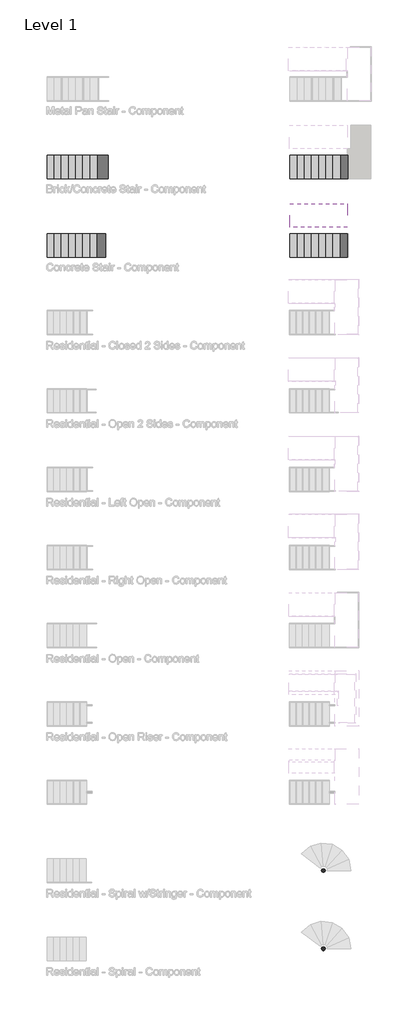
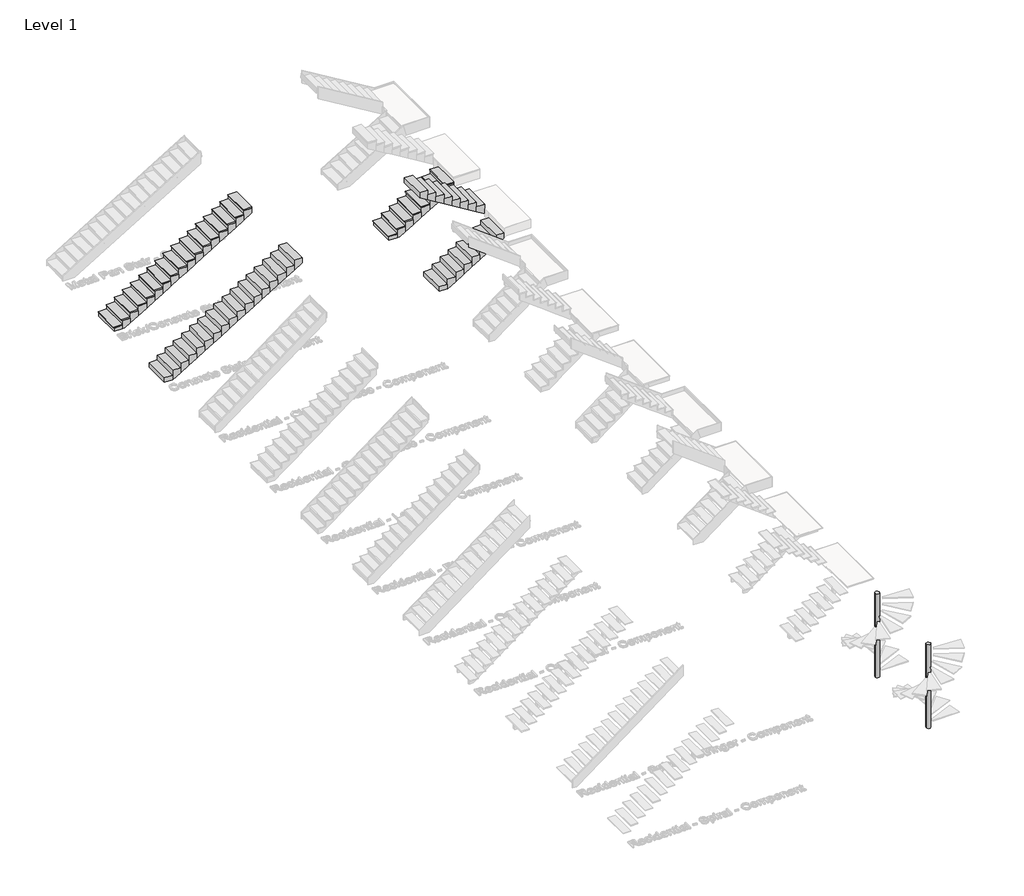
# One storey, part 1 of 15: 5 stair flights, 2 columns.
"""IFC4 building model written with IfcOpenShell, lengths in millimetres."""

from ifc_helpers import new_model, si_unit, frame, origin, place, context, project, spatial, polyline, outline, extrude, faceted_brep, transform, mapped, element, save
from components import column_79e7fb11

model = new_model("IFC4")

# Units and contexts
model_context = context("Model", 3, world=origin())
ifc_project = project(units=[si_unit("LENGTHUNIT", "METRE", prefix="MILLI")], contexts=[model_context])

# Site, building, storey
site = spatial("IfcSite", under=ifc_project)
building = spatial("IfcBuilding", under=site)
storey = spatial("IfcBuildingStorey", under=building, Name="Level 1", Elevation=0.0)

# Columns
placement = place(None, origin())
column_shape = column_79e7fb11(model_context)
element("IfcColumn", 1, ObjectType="Round Column : 06\" Diameter", at=placement, inside=storey, context=model_context, shape_type="MappedRepresentation", body=[
    mapped(column_shape, transform((-16453.3863784, -13874.8871906, 0.0), x_axis=(1.0, 0.0, 0.0), y_axis=(0.0, 1.0, 0.0), z_axis=(0.0, 0.0, 1.0))),
])
element("IfcColumn", 2, ObjectType="Round Column : 06\" Diameter", at=placement, inside=storey, context=model_context, shape_type="MappedRepresentation", body=[
    mapped(column_shape, transform((-16453.3863784, -16922.8871906, 0.0), x_axis=(1.0, 0.0, 0.0), y_axis=(0.0, 1.0, 0.0), z_axis=(0.0, 0.0, 1.0))),
])

# Stair flights
element("IfcStairFlight", 3, ObjectType="1 3/4\" Tread 1\" Nosing", at=placement, inside=storey, context=model_context, shape_type="SolidModel", body=[
    faceted_brep([(-26926.0481446, 13972.7635042, 124.8833333), (-27205.4481446, 13972.7635042, 124.8833333), (-27205.4481446, 13058.3635042, 124.8833333), (-26926.0481446, 13058.3635042, 124.8833333), (-26926.0481446, 13972.7635042, 0.0), (-27205.4481446, 13972.7635042, 0.0), (-27205.4481446, 13058.3635042, 0.0), (-26926.0481446, 13058.3635042, 0.0), (-26646.6481446, 13972.7635042, 294.2166667), (-26926.0481446, 13972.7635042, 294.2166667), (-26926.0481446, 13058.3635042, 294.2166667), (-26646.6481446, 13058.3635042, 294.2166667), (-26646.6481446, 13972.7635042, 116.0122859), (-26838.0684164, 13972.7635042, 0.0), (-26838.0684164, 13058.3635042, 0.0), (-26646.6481446, 13058.3635042, 116.0122859), (-26367.2481446, 13972.7635042, 463.55), (-26646.6481446, 13972.7635042, 463.55), (-26646.6481446, 13058.3635042, 463.55), (-26367.2481446, 13058.3635042, 463.55), (-26367.2481446, 13972.7635042, 285.3456192), (-26367.2481446, 13058.3635042, 285.3456192), (-26087.8481446, 13972.7635042, 632.8833333), (-26367.2481446, 13972.7635042, 632.8833333), (-26367.2481446, 13058.3635042, 632.8833333), (-26087.8481446, 13058.3635042, 632.8833333), (-26087.8481446, 13972.7635042, 454.6789526), (-26087.8481446, 13058.3635042, 454.6789526), (-25808.4481446, 13972.7635042, 802.2166667), (-26087.8481446, 13972.7635042, 802.2166667), (-26087.8481446, 13058.3635042, 802.2166667), (-25808.4481446, 13058.3635042, 802.2166667), (-25808.4481446, 13972.7635042, 624.0122859), (-25808.4481446, 13058.3635042, 624.0122859), (-25529.0481446, 13972.7635042, 971.55), (-25808.4481446, 13972.7635042, 971.55), (-25808.4481446, 13058.3635042, 971.55), (-25529.0481446, 13058.3635042, 971.55), (-25529.0481446, 13972.7635042, 793.3456192), (-25529.0481446, 13058.3635042, 793.3456192), (-25249.6481446, 13972.7635042, 1140.8833333), (-25529.0481446, 13972.7635042, 1140.8833333), (-25529.0481446, 13058.3635042, 1140.8833333), (-25249.6481446, 13058.3635042, 1140.8833333), (-25249.6481446, 13972.7635042, 962.6789526), (-25249.6481446, 13058.3635042, 962.6789526), (-24970.2481446, 13972.7635042, 1310.2166667), (-25249.6481446, 13972.7635042, 1310.2166667), (-25249.6481446, 13058.3635042, 1310.2166667), (-24970.2481446, 13058.3635042, 1310.2166667), (-24970.2481446, 13972.7635042, 1132.0122859), (-24970.2481446, 13058.3635042, 1132.0122859), (-24690.8481446, 13972.7635042, 1479.55), (-24970.2481446, 13972.7635042, 1479.55), (-24970.2481446, 13058.3635042, 1479.55), (-24690.8481446, 13058.3635042, 1479.55), (-24690.8481446, 13972.7635042, 1301.3456192), (-24690.8481446, 13058.3635042, 1301.3456192), (-24411.4481446, 13972.7635042, 1648.8833333), (-24690.8481446, 13972.7635042, 1648.8833333), (-24690.8481446, 13058.3635042, 1648.8833333), (-24411.4481446, 13058.3635042, 1648.8833333), (-24411.4481446, 13972.7635042, 1470.6789526), (-24411.4481446, 13058.3635042, 1470.6789526), (-24132.0481446, 13972.7635042, 1818.2166667), (-24411.4481446, 13972.7635042, 1818.2166667), (-24411.4481446, 13058.3635042, 1818.2166667), (-24132.0481446, 13058.3635042, 1818.2166667), (-24132.0481446, 13972.7635042, 1640.0122859), (-24132.0481446, 13058.3635042, 1640.0122859), (-23852.6481446, 13972.7635042, 1987.55), (-24132.0481446, 13972.7635042, 1987.55), (-24132.0481446, 13058.3635042, 1987.55), (-23852.6481446, 13058.3635042, 1987.55), (-23852.6481446, 13972.7635042, 1809.3456192), (-23852.6481446, 13058.3635042, 1809.3456192), (-23573.2481446, 13972.7635042, 2156.8833333), (-23852.6481446, 13972.7635042, 2156.8833333), (-23852.6481446, 13058.3635042, 2156.8833333), (-23573.2481446, 13058.3635042, 2156.8833333), (-23573.2481446, 13972.7635042, 1978.6789526), (-23573.2481446, 13058.3635042, 1978.6789526), (-23293.8481446, 13972.7635042, 2326.2166667), (-23573.2481446, 13972.7635042, 2326.2166667), (-23573.2481446, 13058.3635042, 2326.2166667), (-23293.8481446, 13058.3635042, 2326.2166667), (-23293.8481446, 13972.7635042, 2148.0122859), (-23293.8481446, 13058.3635042, 2148.0122859), (-23014.4481446, 13972.7635042, 2495.55), (-23293.8481446, 13972.7635042, 2495.55), (-23293.8481446, 13058.3635042, 2495.55), (-23014.4481446, 13058.3635042, 2495.55), (-23014.4481446, 13972.7635042, 2317.3456192), (-23014.4481446, 13058.3635042, 2317.3456192), (-22735.0481446, 13972.7635042, 2664.8833333), (-23014.4481446, 13972.7635042, 2664.8833333), (-23014.4481446, 13058.3635042, 2664.8833333), (-22735.0481446, 13058.3635042, 2664.8833333), (-22735.0481446, 13972.7635042, 2486.6789526), (-22735.0481446, 13058.3635042, 2486.6789526), (-22455.6481446, 13972.7635042, 2834.2166667), (-22735.0481446, 13972.7635042, 2834.2166667), (-22735.0481446, 13058.3635042, 2834.2166667), (-22455.6481446, 13058.3635042, 2834.2166667), (-22455.6481446, 13972.7635042, 2656.0122859), (-22455.6481446, 13058.3635042, 2656.0122859)], [[[0, 1, 2, 3]], [[1, 0, 4, 5]], [[2, 1, 5, 6]], [[3, 2, 6, 7]], [[8, 9, 10, 11]], [[4, 0, 9, 8, 12, 13]], [[0, 3, 10, 9]], [[3, 7, 14, 15, 11, 10]], [[16, 17, 18, 19]], [[17, 16, 20, 12, 8]], [[8, 11, 18, 17]], [[19, 18, 11, 15, 21]], [[22, 23, 24, 25]], [[23, 22, 26, 20, 16]], [[16, 19, 24, 23]], [[25, 24, 19, 21, 27]], [[28, 29, 30, 31]], [[29, 28, 32, 26, 22]], [[22, 25, 30, 29]], [[31, 30, 25, 27, 33]], [[34, 35, 36, 37]], [[35, 34, 38, 32, 28]], [[28, 31, 36, 35]], [[37, 36, 31, 33, 39]], [[40, 41, 42, 43]], [[41, 40, 44, 38, 34]], [[34, 37, 42, 41]], [[43, 42, 37, 39, 45]], [[46, 47, 48, 49]], [[47, 46, 50, 44, 40]], [[40, 43, 48, 47]], [[49, 48, 43, 45, 51]], [[52, 53, 54, 55]], [[53, 52, 56, 50, 46]], [[46, 49, 54, 53]], [[55, 54, 49, 51, 57]], [[58, 59, 60, 61]], [[59, 58, 62, 56, 52]], [[52, 55, 60, 59]], [[61, 60, 55, 57, 63]], [[64, 65, 66, 67]], [[65, 64, 68, 62, 58]], [[58, 61, 66, 65]], [[67, 66, 61, 63, 69]], [[70, 71, 72, 73]], [[71, 70, 74, 68, 64]], [[64, 67, 72, 71]], [[73, 72, 67, 69, 75]], [[76, 77, 78, 79]], [[77, 76, 80, 74, 70]], [[70, 73, 78, 77]], [[79, 78, 73, 75, 81]], [[82, 83, 84, 85]], [[83, 82, 86, 80, 76]], [[76, 79, 84, 83]], [[85, 84, 79, 81, 87]], [[88, 89, 90, 91]], [[89, 88, 92, 86, 82]], [[82, 85, 90, 89]], [[91, 90, 85, 87, 93]], [[94, 95, 96, 97]], [[95, 94, 98, 92, 88]], [[88, 91, 96, 95]], [[97, 96, 91, 93, 99]], [[100, 101, 102, 103]], [[101, 100, 104, 98, 94]], [[94, 97, 102, 101]], [[103, 102, 97, 99, 105]], [[100, 103, 105, 104]], [[5, 4, 13, 14, 7, 6]], [[14, 13, 12, 20, 26, 32, 38, 44, 50, 56, 62, 68, 74, 80, 86, 92, 98, 104, 105, 99, 93, 87, 81, 75, 69, 63, 57, 51, 45, 39, 33, 27, 21, 15]]]),
    extrude(outline(polyline([(169.3333333, -26926.0481446), (169.3333333, -27230.8481446), (150.2833333, -27230.8481446), (124.8833333, -27205.4481446), (124.8833333, -26926.0481446), (169.3333333, -26926.0481446)])), frame((0.0, 13058.3635042, 0.0), z_axis=(0.0, 1.0, 0.0), x_axis=(0.0, 0.0, 1.0)), (0.0, 0.0, 1.0), 914.4),
    extrude(outline(polyline([(338.6666667, -26646.6481446), (338.6666667, -26951.4481446), (319.6166667, -26951.4481446), (294.2166667, -26926.0481446), (294.2166667, -26646.6481446), (338.6666667, -26646.6481446)])), frame((0.0, 13058.3635042, 0.0), z_axis=(0.0, 1.0, 0.0), x_axis=(0.0, 0.0, 1.0)), (0.0, 0.0, 1.0), 914.4),
    extrude(outline(polyline([(508.0, -26367.2481446), (508.0, -26672.0481446), (488.95, -26672.0481446), (463.55, -26646.6481446), (463.55, -26367.2481446), (508.0, -26367.2481446)])), frame((0.0, 13058.3635042, 0.0), z_axis=(0.0, 1.0, 0.0), x_axis=(0.0, 0.0, 1.0)), (0.0, 0.0, 1.0), 914.4),
    extrude(outline(polyline([(677.3333333, -26087.8481446), (677.3333333, -26392.6481446), (658.2833333, -26392.6481446), (632.8833333, -26367.2481446), (632.8833333, -26087.8481446), (677.3333333, -26087.8481446)])), frame((0.0, 13058.3635042, 0.0), z_axis=(0.0, 1.0, 0.0), x_axis=(0.0, 0.0, 1.0)), (0.0, 0.0, 1.0), 914.4),
    extrude(outline(polyline([(846.6666667, -25808.4481446), (846.6666667, -26113.2481446), (827.6166667, -26113.2481446), (802.2166667, -26087.8481446), (802.2166667, -25808.4481446), (846.6666667, -25808.4481446)])), frame((0.0, 13058.3635042, 0.0), z_axis=(0.0, 1.0, 0.0), x_axis=(0.0, 0.0, 1.0)), (0.0, 0.0, 1.0), 914.4),
    extrude(outline(polyline([(1016.0, -25529.0481446), (1016.0, -25833.8481446), (996.95, -25833.8481446), (971.55, -25808.4481446), (971.55, -25529.0481446), (1016.0, -25529.0481446)])), frame((0.0, 13058.3635042, 0.0), z_axis=(0.0, 1.0, 0.0), x_axis=(0.0, 0.0, 1.0)), (0.0, 0.0, 1.0), 914.4),
    extrude(outline(polyline([(1185.3333333, -25249.6481446), (1185.3333333, -25554.4481446), (1166.2833333, -25554.4481446), (1140.8833333, -25529.0481446), (1140.8833333, -25249.6481446), (1185.3333333, -25249.6481446)])), frame((0.0, 13058.3635042, 0.0), z_axis=(0.0, 1.0, 0.0), x_axis=(0.0, 0.0, 1.0)), (0.0, 0.0, 1.0), 914.4),
    extrude(outline(polyline([(1354.6666667, -24970.2481446), (1354.6666667, -25275.0481446), (1335.6166667, -25275.0481446), (1310.2166667, -25249.6481446), (1310.2166667, -24970.2481446), (1354.6666667, -24970.2481446)])), frame((0.0, 13058.3635042, 0.0), z_axis=(0.0, 1.0, 0.0), x_axis=(0.0, 0.0, 1.0)), (0.0, 0.0, 1.0), 914.4),
    extrude(outline(polyline([(1524.0, -24690.8481446), (1524.0, -24995.6481446), (1504.95, -24995.6481446), (1479.55, -24970.2481446), (1479.55, -24690.8481446), (1524.0, -24690.8481446)])), frame((0.0, 13058.3635042, 0.0), z_axis=(0.0, 1.0, 0.0), x_axis=(0.0, 0.0, 1.0)), (0.0, 0.0, 1.0), 914.4),
    extrude(outline(polyline([(1693.3333333, -24411.4481446), (1693.3333333, -24716.2481446), (1674.2833333, -24716.2481446), (1648.8833333, -24690.8481446), (1648.8833333, -24411.4481446), (1693.3333333, -24411.4481446)])), frame((0.0, 13058.3635042, 0.0), z_axis=(0.0, 1.0, 0.0), x_axis=(0.0, 0.0, 1.0)), (0.0, 0.0, 1.0), 914.4),
    extrude(outline(polyline([(1862.6666667, -24132.0481446), (1862.6666667, -24436.8481446), (1843.6166667, -24436.8481446), (1818.2166667, -24411.4481446), (1818.2166667, -24132.0481446), (1862.6666667, -24132.0481446)])), frame((0.0, 13058.3635042, 0.0), z_axis=(0.0, 1.0, 0.0), x_axis=(0.0, 0.0, 1.0)), (0.0, 0.0, 1.0), 914.4),
    extrude(outline(polyline([(2032.0, -23852.6481446), (2032.0, -24157.4481446), (2012.95, -24157.4481446), (1987.55, -24132.0481446), (1987.55, -23852.6481446), (2032.0, -23852.6481446)])), frame((0.0, 13058.3635042, 0.0), z_axis=(0.0, 1.0, 0.0), x_axis=(0.0, 0.0, 1.0)), (0.0, 0.0, 1.0), 914.4),
    extrude(outline(polyline([(2201.3333333, -23573.2481446), (2201.3333333, -23878.0481446), (2182.2833333, -23878.0481446), (2156.8833333, -23852.6481446), (2156.8833333, -23573.2481446), (2201.3333333, -23573.2481446)])), frame((0.0, 13058.3635042, 0.0), z_axis=(0.0, 1.0, 0.0), x_axis=(0.0, 0.0, 1.0)), (0.0, 0.0, 1.0), 914.4),
    extrude(outline(polyline([(2370.6666667, -23293.8481446), (2370.6666667, -23598.6481446), (2351.6166667, -23598.6481446), (2326.2166667, -23573.2481446), (2326.2166667, -23293.8481446), (2370.6666667, -23293.8481446)])), frame((0.0, 13058.3635042, 0.0), z_axis=(0.0, 1.0, 0.0), x_axis=(0.0, 0.0, 1.0)), (0.0, 0.0, 1.0), 914.4),
    extrude(outline(polyline([(2540.0, -23014.4481446), (2540.0, -23319.2481446), (2520.95, -23319.2481446), (2495.55, -23293.8481446), (2495.55, -23014.4481446), (2540.0, -23014.4481446)])), frame((0.0, 13058.3635042, 0.0), z_axis=(0.0, 1.0, 0.0), x_axis=(0.0, 0.0, 1.0)), (0.0, 0.0, 1.0), 914.4),
    extrude(outline(polyline([(2709.3333333, -22735.0481446), (2709.3333333, -23039.8481446), (2690.2833333, -23039.8481446), (2664.8833333, -23014.4481446), (2664.8833333, -22735.0481446), (2709.3333333, -22735.0481446)])), frame((0.0, 13058.3635042, 0.0), z_axis=(0.0, 1.0, 0.0), x_axis=(0.0, 0.0, 1.0)), (0.0, 0.0, 1.0), 914.4),
    extrude(outline(polyline([(2878.6666667, -22455.6481446), (2878.6666667, -22760.4481446), (2859.6166667, -22760.4481446), (2834.2166667, -22735.0481446), (2834.2166667, -22455.6481446), (2878.6666667, -22455.6481446)])), frame((0.0, 13058.3635042, 0.0), z_axis=(0.0, 1.0, 0.0), x_axis=(0.0, 0.0, 1.0)), (0.0, 0.0, 1.0), 914.4),
])
element("IfcStairFlight", 4, ObjectType="1 3/4\" Tread 1\" Nosing", at=placement, inside=storey, context=model_context, shape_type="Brep", body=[
    faceted_brep([(-17451.8481446, 13972.7635042, 124.8833333), (-17731.2481446, 13972.7635042, 124.8833333), (-17731.2481446, 13058.3635042, 124.8833333), (-17451.8481446, 13058.3635042, 124.8833333), (-17451.8481446, 13972.7635042, 0.0), (-17731.2481446, 13972.7635042, 0.0), (-17731.2481446, 13058.3635042, 0.0), (-17451.8481446, 13058.3635042, 0.0), (-15775.4481446, 13972.7635042, 1310.2166667), (-15775.4481446, 13058.3635042, 1310.2166667), (-15521.4481446, 13058.3635042, 1310.2166667), (-15496.0481446, 13058.3635042, 1310.2166667), (-15496.0481446, 13972.7635042, 1310.2166667), (-15521.4481446, 13972.7635042, 1310.2166667), (-15775.4481446, 13972.7635042, 1140.8833333), (-15496.0481446, 13972.7635042, 1177.1469875), (-15496.0481446, 13972.7635042, 1132.0122859), (-15775.4481446, 13972.7635042, 962.6789526), (-15775.4481446, 13058.3635042, 1140.8833333), (-15775.4481446, 13058.3635042, 962.6789526), (-15521.4481446, 13058.3635042, 1116.6183465), (-15496.0481446, 13058.3635042, 1132.0122859), (-17172.4481446, 13972.7635042, 294.2166667), (-17451.8481446, 13972.7635042, 294.2166667), (-17451.8481446, 13058.3635042, 294.2166667), (-17172.4481446, 13058.3635042, 294.2166667), (-17172.4481446, 13972.7635042, 116.0122859), (-17363.8684164, 13972.7635042, 0.0), (-17363.8684164, 13058.3635042, 0.0), (-17172.4481446, 13058.3635042, 116.0122859), (-16893.0481446, 13972.7635042, 463.55), (-17172.4481446, 13972.7635042, 463.55), (-17172.4481446, 13058.3635042, 463.55), (-16893.0481446, 13058.3635042, 463.55), (-16893.0481446, 13972.7635042, 285.3456192), (-16893.0481446, 13058.3635042, 285.3456192), (-16613.6481446, 13972.7635042, 632.8833333), (-16893.0481446, 13972.7635042, 632.8833333), (-16893.0481446, 13058.3635042, 632.8833333), (-16613.6481446, 13058.3635042, 632.8833333), (-16613.6481446, 13972.7635042, 454.6789526), (-16613.6481446, 13058.3635042, 454.6789526), (-16334.2481446, 13972.7635042, 802.2166667), (-16613.6481446, 13972.7635042, 802.2166667), (-16613.6481446, 13058.3635042, 802.2166667), (-16334.2481446, 13058.3635042, 802.2166667), (-16334.2481446, 13972.7635042, 624.0122859), (-16334.2481446, 13058.3635042, 624.0122859), (-16054.8481446, 13972.7635042, 971.55), (-16334.2481446, 13972.7635042, 971.55), (-16334.2481446, 13058.3635042, 971.55), (-16054.8481446, 13058.3635042, 971.55), (-16054.8481446, 13972.7635042, 793.3456192), (-16054.8481446, 13058.3635042, 793.3456192), (-16054.8481446, 13972.7635042, 1140.8833333), (-16054.8481446, 13058.3635042, 1140.8833333)], [[[0, 1, 2, 3]], [[1, 0, 4, 5]], [[2, 1, 5, 6]], [[3, 2, 6, 7]], [[8, 9, 10, 11, 12, 13]], [[14, 8, 13, 12, 15, 16, 17]], [[14, 18, 9, 8]], [[10, 9, 18, 19, 20]], [[11, 10, 20, 21]], [[12, 11, 21, 16, 15]], [[22, 23, 24, 25]], [[4, 0, 23, 22, 26, 27]], [[0, 3, 24, 23]], [[3, 7, 28, 29, 25, 24]], [[30, 31, 32, 33]], [[31, 30, 34, 26, 22]], [[22, 25, 32, 31]], [[33, 32, 25, 29, 35]], [[36, 37, 38, 39]], [[37, 36, 40, 34, 30]], [[30, 33, 38, 37]], [[39, 38, 33, 35, 41]], [[42, 43, 44, 45]], [[43, 42, 46, 40, 36]], [[36, 39, 44, 43]], [[45, 44, 39, 41, 47]], [[48, 49, 50, 51]], [[49, 48, 52, 46, 42]], [[42, 45, 50, 49]], [[51, 50, 45, 47, 53]], [[14, 54, 55, 18]], [[54, 14, 17, 52, 48]], [[48, 51, 55, 54]], [[18, 55, 51, 53, 19]], [[5, 4, 27, 28, 7, 6]], [[28, 27, 26, 34, 40, 46, 52, 17, 16, 21, 20, 19, 53, 47, 41, 35, 29]]]),
    faceted_brep([(-17756.6481446, 13972.7635042, 169.3333333), (-17756.6481446, 13058.3635042, 169.3333333), (-17451.8481446, 13058.3635042, 169.3333333), (-17451.8481446, 13972.7635042, 169.3333333), (-17731.2481446, 13972.7635042, 124.8833333), (-17451.8481446, 13972.7635042, 124.8833333), (-17451.8481446, 13058.3635042, 124.8833333), (-17731.2481446, 13058.3635042, 124.8833333), (-17756.6481446, 13972.7635042, 150.2833333), (-17756.6481446, 13058.3635042, 150.2833333)], [[[0, 1, 2, 3]], [[4, 5, 6, 7]], [[0, 3, 5, 4, 8]], [[2, 1, 9, 7, 6]], [[3, 2, 6, 5]], [[9, 1, 0, 8]], [[7, 9, 8, 4]]]),
    faceted_brep([(-15800.8481446, 13972.7635042, 1354.6666667), (-15800.8481446, 13058.3635042, 1354.6666667), (-15521.4481446, 13058.3635042, 1354.6666667), (-15496.0481446, 13058.3635042, 1354.6666667), (-15496.0481446, 13972.7635042, 1354.6666667), (-15775.4481446, 13972.7635042, 1310.2166667), (-15496.0481446, 13972.7635042, 1310.2166667), (-15496.0481446, 13058.3635042, 1310.2166667), (-15521.4481446, 13058.3635042, 1310.2166667), (-15775.4481446, 13058.3635042, 1310.2166667), (-15800.8481446, 13972.7635042, 1335.6166667), (-15800.8481446, 13058.3635042, 1335.6166667)], [[[0, 1, 2, 3, 4]], [[5, 6, 7, 8, 9]], [[0, 4, 6, 5, 10]], [[2, 1, 11, 9, 8]], [[3, 2, 8, 7]], [[11, 1, 0, 10]], [[9, 11, 10, 5]], [[4, 3, 7, 6]]]),
    faceted_brep([(-17477.2481446, 13972.7635042, 338.6666667), (-17477.2481446, 13058.3635042, 338.6666667), (-17172.4481446, 13058.3635042, 338.6666667), (-17172.4481446, 13972.7635042, 338.6666667), (-17451.8481446, 13972.7635042, 294.2166667), (-17172.4481446, 13972.7635042, 294.2166667), (-17172.4481446, 13058.3635042, 294.2166667), (-17451.8481446, 13058.3635042, 294.2166667), (-17477.2481446, 13972.7635042, 319.6166667), (-17477.2481446, 13058.3635042, 319.6166667)], [[[0, 1, 2, 3]], [[4, 5, 6, 7]], [[0, 3, 5, 4, 8]], [[2, 1, 9, 7, 6]], [[3, 2, 6, 5]], [[9, 1, 0, 8]], [[7, 9, 8, 4]]]),
    faceted_brep([(-17197.8481446, 13972.7635042, 508.0), (-17197.8481446, 13058.3635042, 508.0), (-16893.0481446, 13058.3635042, 508.0), (-16893.0481446, 13972.7635042, 508.0), (-17172.4481446, 13972.7635042, 463.55), (-16893.0481446, 13972.7635042, 463.55), (-16893.0481446, 13058.3635042, 463.55), (-17172.4481446, 13058.3635042, 463.55), (-17197.8481446, 13972.7635042, 488.95), (-17197.8481446, 13058.3635042, 488.95)], [[[0, 1, 2, 3]], [[4, 5, 6, 7]], [[0, 3, 5, 4, 8]], [[2, 1, 9, 7, 6]], [[3, 2, 6, 5]], [[9, 1, 0, 8]], [[7, 9, 8, 4]]]),
    faceted_brep([(-16918.4481446, 13972.7635042, 677.3333333), (-16918.4481446, 13058.3635042, 677.3333333), (-16613.6481446, 13058.3635042, 677.3333333), (-16613.6481446, 13972.7635042, 677.3333333), (-16893.0481446, 13972.7635042, 632.8833333), (-16613.6481446, 13972.7635042, 632.8833333), (-16613.6481446, 13058.3635042, 632.8833333), (-16893.0481446, 13058.3635042, 632.8833333), (-16918.4481446, 13972.7635042, 658.2833333), (-16918.4481446, 13058.3635042, 658.2833333)], [[[0, 1, 2, 3]], [[4, 5, 6, 7]], [[0, 3, 5, 4, 8]], [[2, 1, 9, 7, 6]], [[3, 2, 6, 5]], [[9, 1, 0, 8]], [[7, 9, 8, 4]]]),
    faceted_brep([(-16639.0481446, 13972.7635042, 846.6666667), (-16639.0481446, 13058.3635042, 846.6666667), (-16334.2481446, 13058.3635042, 846.6666667), (-16334.2481446, 13972.7635042, 846.6666667), (-16613.6481446, 13972.7635042, 802.2166667), (-16334.2481446, 13972.7635042, 802.2166667), (-16334.2481446, 13058.3635042, 802.2166667), (-16613.6481446, 13058.3635042, 802.2166667), (-16639.0481446, 13972.7635042, 827.6166667), (-16639.0481446, 13058.3635042, 827.6166667)], [[[0, 1, 2, 3]], [[4, 5, 6, 7]], [[0, 3, 5, 4, 8]], [[2, 1, 9, 7, 6]], [[3, 2, 6, 5]], [[9, 1, 0, 8]], [[7, 9, 8, 4]]]),
    faceted_brep([(-16359.6481446, 13972.7635042, 1016.0), (-16359.6481446, 13058.3635042, 1016.0), (-16054.8481446, 13058.3635042, 1016.0), (-16054.8481446, 13972.7635042, 1016.0), (-16334.2481446, 13972.7635042, 971.55), (-16054.8481446, 13972.7635042, 971.55), (-16054.8481446, 13058.3635042, 971.55), (-16334.2481446, 13058.3635042, 971.55), (-16359.6481446, 13972.7635042, 996.95), (-16359.6481446, 13058.3635042, 996.95)], [[[0, 1, 2, 3]], [[4, 5, 6, 7]], [[0, 3, 5, 4, 8]], [[2, 1, 9, 7, 6]], [[3, 2, 6, 5]], [[9, 1, 0, 8]], [[7, 9, 8, 4]]]),
    faceted_brep([(-16080.2481446, 13972.7635042, 1185.3333333), (-16080.2481446, 13058.3635042, 1185.3333333), (-15775.4481446, 13058.3635042, 1185.3333333), (-15775.4481446, 13972.7635042, 1185.3333333), (-16054.8481446, 13972.7635042, 1140.8833333), (-15775.4481446, 13972.7635042, 1140.8833333), (-15775.4481446, 13058.3635042, 1140.8833333), (-16054.8481446, 13058.3635042, 1140.8833333), (-16080.2481446, 13972.7635042, 1166.2833333), (-16080.2481446, 13058.3635042, 1166.2833333)], [[[0, 1, 2, 3]], [[4, 5, 6, 7]], [[0, 3, 5, 4, 8]], [[2, 1, 9, 7, 6]], [[3, 2, 6, 5]], [[9, 1, 0, 8]], [[7, 9, 8, 4]]]),
])
element("IfcStairFlight", 5, ObjectType="1/32\" Tread", at=placement, inside=storey, context=model_context, shape_type="SolidModel", body=[
    faceted_brep([(-26951.4481446, 10924.7635042, 168.5395833), (-27230.8481446, 10924.7635042, 168.5395833), (-27230.8481446, 10010.3635042, 168.5395833), (-26951.4481446, 10010.3635042, 168.5395833), (-26951.4481446, 10924.7635042, 0.0), (-27230.8481446, 10924.7635042, 0.0), (-27230.8481446, 10010.3635042, 0.0), (-26951.4481446, 10010.3635042, 0.0), (-26672.0481446, 10924.7635042, 337.8729167), (-26951.4481446, 10924.7635042, 337.8729167), (-26951.4481446, 10010.3635042, 337.8729167), (-26672.0481446, 10010.3635042, 337.8729167), (-26672.0481446, 10924.7635042, 159.6685359), (-26935.5012289, 10924.7635042, 0.0), (-26935.5012289, 10010.3635042, 0.0), (-26672.0481446, 10010.3635042, 159.6685359), (-26392.6481446, 10924.7635042, 507.20625), (-26672.0481446, 10924.7635042, 507.20625), (-26672.0481446, 10010.3635042, 507.20625), (-26392.6481446, 10010.3635042, 507.20625), (-26392.6481446, 10924.7635042, 329.0018692), (-26392.6481446, 10010.3635042, 329.0018692), (-26113.2481446, 10924.7635042, 676.5395833), (-26392.6481446, 10924.7635042, 676.5395833), (-26392.6481446, 10010.3635042, 676.5395833), (-26113.2481446, 10010.3635042, 676.5395833), (-26113.2481446, 10924.7635042, 498.3352026), (-26113.2481446, 10010.3635042, 498.3352026), (-25833.8481446, 10924.7635042, 845.8729167), (-26113.2481446, 10924.7635042, 845.8729167), (-26113.2481446, 10010.3635042, 845.8729167), (-25833.8481446, 10010.3635042, 845.8729167), (-25833.8481446, 10924.7635042, 667.6685359), (-25833.8481446, 10010.3635042, 667.6685359), (-25554.4481446, 10924.7635042, 1015.20625), (-25833.8481446, 10924.7635042, 1015.20625), (-25833.8481446, 10010.3635042, 1015.20625), (-25554.4481446, 10010.3635042, 1015.20625), (-25554.4481446, 10924.7635042, 837.0018692), (-25554.4481446, 10010.3635042, 837.0018692), (-25275.0481446, 10924.7635042, 1184.5395833), (-25554.4481446, 10924.7635042, 1184.5395833), (-25554.4481446, 10010.3635042, 1184.5395833), (-25275.0481446, 10010.3635042, 1184.5395833), (-25275.0481446, 10924.7635042, 1006.3352026), (-25275.0481446, 10010.3635042, 1006.3352026), (-24995.6481446, 10924.7635042, 1353.8729167), (-25275.0481446, 10924.7635042, 1353.8729167), (-25275.0481446, 10010.3635042, 1353.8729167), (-24995.6481446, 10010.3635042, 1353.8729167), (-24995.6481446, 10924.7635042, 1175.6685359), (-24995.6481446, 10010.3635042, 1175.6685359), (-24716.2481446, 10924.7635042, 1523.20625), (-24995.6481446, 10924.7635042, 1523.20625), (-24995.6481446, 10010.3635042, 1523.20625), (-24716.2481446, 10010.3635042, 1523.20625), (-24716.2481446, 10924.7635042, 1345.0018692), (-24716.2481446, 10010.3635042, 1345.0018692), (-24436.8481446, 10924.7635042, 1692.5395833), (-24716.2481446, 10924.7635042, 1692.5395833), (-24716.2481446, 10010.3635042, 1692.5395833), (-24436.8481446, 10010.3635042, 1692.5395833), (-24436.8481446, 10924.7635042, 1514.3352026), (-24436.8481446, 10010.3635042, 1514.3352026), (-24157.4481446, 10924.7635042, 1861.8729167), (-24436.8481446, 10924.7635042, 1861.8729167), (-24436.8481446, 10010.3635042, 1861.8729167), (-24157.4481446, 10010.3635042, 1861.8729167), (-24157.4481446, 10924.7635042, 1683.6685359), (-24157.4481446, 10010.3635042, 1683.6685359), (-23878.0481446, 10924.7635042, 2031.20625), (-24157.4481446, 10924.7635042, 2031.20625), (-24157.4481446, 10010.3635042, 2031.20625), (-23878.0481446, 10010.3635042, 2031.20625), (-23878.0481446, 10924.7635042, 1853.0018692), (-23878.0481446, 10010.3635042, 1853.0018692), (-23598.6481446, 10924.7635042, 2200.5395833), (-23878.0481446, 10924.7635042, 2200.5395833), (-23878.0481446, 10010.3635042, 2200.5395833), (-23598.6481446, 10010.3635042, 2200.5395833), (-23598.6481446, 10924.7635042, 2022.3352026), (-23598.6481446, 10010.3635042, 2022.3352026), (-23319.2481446, 10924.7635042, 2369.8729167), (-23598.6481446, 10924.7635042, 2369.8729167), (-23598.6481446, 10010.3635042, 2369.8729167), (-23319.2481446, 10010.3635042, 2369.8729167), (-23319.2481446, 10924.7635042, 2191.6685359), (-23319.2481446, 10010.3635042, 2191.6685359), (-23039.8481446, 10924.7635042, 2539.20625), (-23319.2481446, 10924.7635042, 2539.20625), (-23319.2481446, 10010.3635042, 2539.20625), (-23039.8481446, 10010.3635042, 2539.20625), (-23039.8481446, 10924.7635042, 2361.0018692), (-23039.8481446, 10010.3635042, 2361.0018692), (-22760.4481446, 10924.7635042, 2708.5395833), (-23039.8481446, 10924.7635042, 2708.5395833), (-23039.8481446, 10010.3635042, 2708.5395833), (-22760.4481446, 10010.3635042, 2708.5395833), (-22760.4481446, 10924.7635042, 2530.3352026), (-22760.4481446, 10010.3635042, 2530.3352026), (-22481.0481446, 10924.7635042, 2877.8729167), (-22760.4481446, 10924.7635042, 2877.8729167), (-22760.4481446, 10010.3635042, 2877.8729167), (-22481.0481446, 10010.3635042, 2877.8729167), (-22481.0481446, 10924.7635042, 2699.6685359), (-22481.0481446, 10010.3635042, 2699.6685359)], [[[0, 1, 2, 3]], [[1, 0, 4, 5]], [[2, 1, 5, 6]], [[3, 2, 6, 7]], [[8, 9, 10, 11]], [[4, 0, 9, 8, 12, 13]], [[0, 3, 10, 9]], [[3, 7, 14, 15, 11, 10]], [[16, 17, 18, 19]], [[17, 16, 20, 12, 8]], [[8, 11, 18, 17]], [[19, 18, 11, 15, 21]], [[22, 23, 24, 25]], [[23, 22, 26, 20, 16]], [[16, 19, 24, 23]], [[25, 24, 19, 21, 27]], [[28, 29, 30, 31]], [[29, 28, 32, 26, 22]], [[22, 25, 30, 29]], [[31, 30, 25, 27, 33]], [[34, 35, 36, 37]], [[35, 34, 38, 32, 28]], [[28, 31, 36, 35]], [[37, 36, 31, 33, 39]], [[40, 41, 42, 43]], [[41, 40, 44, 38, 34]], [[34, 37, 42, 41]], [[43, 42, 37, 39, 45]], [[46, 47, 48, 49]], [[47, 46, 50, 44, 40]], [[40, 43, 48, 47]], [[49, 48, 43, 45, 51]], [[52, 53, 54, 55]], [[53, 52, 56, 50, 46]], [[46, 49, 54, 53]], [[55, 54, 49, 51, 57]], [[58, 59, 60, 61]], [[59, 58, 62, 56, 52]], [[52, 55, 60, 59]], [[61, 60, 55, 57, 63]], [[64, 65, 66, 67]], [[65, 64, 68, 62, 58]], [[58, 61, 66, 65]], [[67, 66, 61, 63, 69]], [[70, 71, 72, 73]], [[71, 70, 74, 68, 64]], [[64, 67, 72, 71]], [[73, 72, 67, 69, 75]], [[76, 77, 78, 79]], [[77, 76, 80, 74, 70]], [[70, 73, 78, 77]], [[79, 78, 73, 75, 81]], [[82, 83, 84, 85]], [[83, 82, 86, 80, 76]], [[76, 79, 84, 83]], [[85, 84, 79, 81, 87]], [[88, 89, 90, 91]], [[89, 88, 92, 86, 82]], [[82, 85, 90, 89]], [[91, 90, 85, 87, 93]], [[94, 95, 96, 97]], [[95, 94, 98, 92, 88]], [[88, 91, 96, 95]], [[97, 96, 91, 93, 99]], [[100, 101, 102, 103]], [[101, 100, 104, 98, 94]], [[94, 97, 102, 101]], [[103, 102, 97, 99, 105]], [[100, 103, 105, 104]], [[5, 4, 13, 14, 7, 6]], [[14, 13, 12, 20, 26, 32, 38, 44, 50, 56, 62, 68, 74, 80, 86, 92, 98, 104, 105, 99, 93, 87, 81, 75, 69, 63, 57, 51, 45, 39, 33, 27, 21, 15]]]),
    extrude(outline(polyline([(-26951.4481446, 10924.7635042), (-26951.4481446, 10010.3635042), (-27230.8481446, 10010.3635042), (-27230.8481446, 10924.7635042), (-26951.4481446, 10924.7635042)])), frame((0.0, 0.0, 168.5395833), z_axis=(0.0, 0.0, 1.0), x_axis=(1.0, 0.0, 0.0)), (0.0, 0.0, 1.0), 0.79375),
    extrude(outline(polyline([(-26672.0481446, 10924.7635042), (-26672.0481446, 10010.3635042), (-26951.4481446, 10010.3635042), (-26951.4481446, 10924.7635042), (-26672.0481446, 10924.7635042)])), frame((0.0, 0.0, 337.8729167), z_axis=(0.0, 0.0, 1.0), x_axis=(1.0, 0.0, 0.0)), (0.0, 0.0, 1.0), 0.79375),
    extrude(outline(polyline([(-26392.6481446, 10924.7635042), (-26392.6481446, 10010.3635042), (-26672.0481446, 10010.3635042), (-26672.0481446, 10924.7635042), (-26392.6481446, 10924.7635042)])), frame((0.0, 0.0, 507.20625), z_axis=(0.0, 0.0, 1.0), x_axis=(1.0, 0.0, 0.0)), (0.0, 0.0, 1.0), 0.79375),
    extrude(outline(polyline([(-26113.2481446, 10924.7635042), (-26113.2481446, 10010.3635042), (-26392.6481446, 10010.3635042), (-26392.6481446, 10924.7635042), (-26113.2481446, 10924.7635042)])), frame((0.0, 0.0, 676.5395833), z_axis=(0.0, 0.0, 1.0), x_axis=(1.0, 0.0, 0.0)), (0.0, 0.0, 1.0), 0.79375),
    extrude(outline(polyline([(-25833.8481446, 10924.7635042), (-25833.8481446, 10010.3635042), (-26113.2481446, 10010.3635042), (-26113.2481446, 10924.7635042), (-25833.8481446, 10924.7635042)])), frame((0.0, 0.0, 845.8729167), z_axis=(0.0, 0.0, 1.0), x_axis=(1.0, 0.0, 0.0)), (0.0, 0.0, 1.0), 0.79375),
    extrude(outline(polyline([(-25554.4481446, 10924.7635042), (-25554.4481446, 10010.3635042), (-25833.8481446, 10010.3635042), (-25833.8481446, 10924.7635042), (-25554.4481446, 10924.7635042)])), frame((0.0, 0.0, 1015.20625), z_axis=(0.0, 0.0, 1.0), x_axis=(1.0, 0.0, 0.0)), (0.0, 0.0, 1.0), 0.79375),
    extrude(outline(polyline([(-25275.0481446, 10924.7635042), (-25275.0481446, 10010.3635042), (-25554.4481446, 10010.3635042), (-25554.4481446, 10924.7635042), (-25275.0481446, 10924.7635042)])), frame((0.0, 0.0, 1184.5395833), z_axis=(0.0, 0.0, 1.0), x_axis=(1.0, 0.0, 0.0)), (0.0, 0.0, 1.0), 0.79375),
    extrude(outline(polyline([(-24995.6481446, 10924.7635042), (-24995.6481446, 10010.3635042), (-25275.0481446, 10010.3635042), (-25275.0481446, 10924.7635042), (-24995.6481446, 10924.7635042)])), frame((0.0, 0.0, 1353.8729167), z_axis=(0.0, 0.0, 1.0), x_axis=(1.0, 0.0, 0.0)), (0.0, 0.0, 1.0), 0.79375),
    extrude(outline(polyline([(-24716.2481446, 10924.7635042), (-24716.2481446, 10010.3635042), (-24995.6481446, 10010.3635042), (-24995.6481446, 10924.7635042), (-24716.2481446, 10924.7635042)])), frame((0.0, 0.0, 1523.20625), z_axis=(0.0, 0.0, 1.0), x_axis=(1.0, 0.0, 0.0)), (0.0, 0.0, 1.0), 0.79375),
    extrude(outline(polyline([(-24436.8481446, 10924.7635042), (-24436.8481446, 10010.3635042), (-24716.2481446, 10010.3635042), (-24716.2481446, 10924.7635042), (-24436.8481446, 10924.7635042)])), frame((0.0, 0.0, 1692.5395833), z_axis=(0.0, 0.0, 1.0), x_axis=(1.0, 0.0, 0.0)), (0.0, 0.0, 1.0), 0.79375),
    extrude(outline(polyline([(-24157.4481446, 10924.7635042), (-24157.4481446, 10010.3635042), (-24436.8481446, 10010.3635042), (-24436.8481446, 10924.7635042), (-24157.4481446, 10924.7635042)])), frame((0.0, 0.0, 1861.8729167), z_axis=(0.0, 0.0, 1.0), x_axis=(1.0, 0.0, 0.0)), (0.0, 0.0, 1.0), 0.79375),
    extrude(outline(polyline([(-23878.0481446, 10924.7635042), (-23878.0481446, 10010.3635042), (-24157.4481446, 10010.3635042), (-24157.4481446, 10924.7635042), (-23878.0481446, 10924.7635042)])), frame((0.0, 0.0, 2031.20625), z_axis=(0.0, 0.0, 1.0), x_axis=(1.0, 0.0, 0.0)), (0.0, 0.0, 1.0), 0.79375),
    extrude(outline(polyline([(-23598.6481446, 10924.7635042), (-23598.6481446, 10010.3635042), (-23878.0481446, 10010.3635042), (-23878.0481446, 10924.7635042), (-23598.6481446, 10924.7635042)])), frame((0.0, 0.0, 2200.5395833), z_axis=(0.0, 0.0, 1.0), x_axis=(1.0, 0.0, 0.0)), (0.0, 0.0, 1.0), 0.79375),
    extrude(outline(polyline([(-23319.2481446, 10924.7635042), (-23319.2481446, 10010.3635042), (-23598.6481446, 10010.3635042), (-23598.6481446, 10924.7635042), (-23319.2481446, 10924.7635042)])), frame((0.0, 0.0, 2369.8729167), z_axis=(0.0, 0.0, 1.0), x_axis=(1.0, 0.0, 0.0)), (0.0, 0.0, 1.0), 0.79375),
    extrude(outline(polyline([(-23039.8481446, 10924.7635042), (-23039.8481446, 10010.3635042), (-23319.2481446, 10010.3635042), (-23319.2481446, 10924.7635042), (-23039.8481446, 10924.7635042)])), frame((0.0, 0.0, 2539.20625), z_axis=(0.0, 0.0, 1.0), x_axis=(1.0, 0.0, 0.0)), (0.0, 0.0, 1.0), 0.79375),
    extrude(outline(polyline([(-22760.4481446, 10924.7635042), (-22760.4481446, 10010.3635042), (-23039.8481446, 10010.3635042), (-23039.8481446, 10924.7635042), (-22760.4481446, 10924.7635042)])), frame((0.0, 0.0, 2708.5395833), z_axis=(0.0, 0.0, 1.0), x_axis=(1.0, 0.0, 0.0)), (0.0, 0.0, 1.0), 0.79375),
    extrude(outline(polyline([(-22481.0481446, 10924.7635042), (-22481.0481446, 10010.3635042), (-22760.4481446, 10010.3635042), (-22760.4481446, 10924.7635042), (-22481.0481446, 10924.7635042)])), frame((0.0, 0.0, 2877.8729167), z_axis=(0.0, 0.0, 1.0), x_axis=(1.0, 0.0, 0.0)), (0.0, 0.0, 1.0), 0.79375),
])
element("IfcStairFlight", 6, ObjectType="1/32\" Tread", at=placement, inside=storey, context=model_context, shape_type="SolidModel", body=[
    faceted_brep([(-17477.2481446, 10924.7635042, 168.5395833), (-17756.6481446, 10924.7635042, 168.5395833), (-17756.6481446, 10010.3635042, 168.5395833), (-17477.2481446, 10010.3635042, 168.5395833), (-17477.2481446, 10924.7635042, 0.0), (-17756.6481446, 10924.7635042, 0.0), (-17756.6481446, 10010.3635042, 0.0), (-17477.2481446, 10010.3635042, 0.0), (-17197.8481446, 10924.7635042, 337.8729167), (-17477.2481446, 10924.7635042, 337.8729167), (-17477.2481446, 10010.3635042, 337.8729167), (-17197.8481446, 10010.3635042, 337.8729167), (-17197.8481446, 10924.7635042, 159.6685359), (-17461.3012289, 10924.7635042, 0.0), (-17461.3012289, 10010.3635042, 0.0), (-17197.8481446, 10010.3635042, 159.6685359), (-16918.4481446, 10924.7635042, 507.20625), (-17197.8481446, 10924.7635042, 507.20625), (-17197.8481446, 10010.3635042, 507.20625), (-16918.4481446, 10010.3635042, 507.20625), (-16918.4481446, 10924.7635042, 329.0018692), (-16918.4481446, 10010.3635042, 329.0018692), (-16639.0481446, 10924.7635042, 676.5395833), (-16918.4481446, 10924.7635042, 676.5395833), (-16918.4481446, 10010.3635042, 676.5395833), (-16639.0481446, 10010.3635042, 676.5395833), (-16639.0481446, 10924.7635042, 498.3352026), (-16639.0481446, 10010.3635042, 498.3352026), (-16359.6481446, 10924.7635042, 845.8729167), (-16639.0481446, 10924.7635042, 845.8729167), (-16639.0481446, 10010.3635042, 845.8729167), (-16359.6481446, 10010.3635042, 845.8729167), (-16359.6481446, 10924.7635042, 667.6685359), (-16359.6481446, 10010.3635042, 667.6685359), (-16080.2481446, 10924.7635042, 1015.20625), (-16359.6481446, 10924.7635042, 1015.20625), (-16359.6481446, 10010.3635042, 1015.20625), (-16080.2481446, 10010.3635042, 1015.20625), (-16080.2481446, 10924.7635042, 837.0018692), (-16080.2481446, 10010.3635042, 837.0018692), (-15800.8481446, 10924.7635042, 1184.5395833), (-16080.2481446, 10924.7635042, 1184.5395833), (-16080.2481446, 10010.3635042, 1184.5395833), (-15800.8481446, 10010.3635042, 1184.5395833), (-15800.8481446, 10924.7635042, 1006.3352026), (-15800.8481446, 10010.3635042, 1006.3352026), (-15521.4481446, 10924.7635042, 1175.6685359), (-15521.4481446, 10010.3635042, 1175.6685359), (-15521.4481446, 10924.7635042, 1353.8729167), (-15800.8481446, 10924.7635042, 1353.8729167), (-15800.8481446, 10010.3635042, 1353.8729167), (-15521.4481446, 10010.3635042, 1353.8729167), (-15521.4481446, 10924.7635042, 1220.8032375)], [[[0, 1, 2, 3]], [[1, 0, 4, 5]], [[2, 1, 5, 6]], [[3, 2, 6, 7]], [[8, 9, 10, 11]], [[4, 0, 9, 8, 12, 13]], [[0, 3, 10, 9]], [[3, 7, 14, 15, 11, 10]], [[16, 17, 18, 19]], [[17, 16, 20, 12, 8]], [[8, 11, 18, 17]], [[19, 18, 11, 15, 21]], [[22, 23, 24, 25]], [[23, 22, 26, 20, 16]], [[16, 19, 24, 23]], [[25, 24, 19, 21, 27]], [[28, 29, 30, 31]], [[29, 28, 32, 26, 22]], [[22, 25, 30, 29]], [[31, 30, 25, 27, 33]], [[34, 35, 36, 37]], [[35, 34, 38, 32, 28]], [[28, 31, 36, 35]], [[37, 36, 31, 33, 39]], [[40, 41, 42, 43]], [[41, 40, 44, 38, 34]], [[34, 37, 42, 41]], [[43, 42, 37, 39, 45]], [[5, 4, 13, 14, 7, 6]], [[14, 13, 12, 20, 26, 32, 38, 44, 46, 47, 45, 39, 33, 27, 21, 15]], [[48, 49, 50, 51]], [[49, 48, 52, 46, 44, 40]], [[40, 43, 50, 49]], [[51, 50, 43, 45, 47]], [[48, 51, 47, 46, 52]]]),
    extrude(outline(polyline([(-17477.2481446, 10924.7635042), (-17477.2481446, 10010.3635042), (-17756.6481446, 10010.3635042), (-17756.6481446, 10924.7635042), (-17477.2481446, 10924.7635042)])), frame((0.0, 0.0, 168.5395833), z_axis=(0.0, 0.0, 1.0), x_axis=(1.0, 0.0, 0.0)), (0.0, 0.0, 1.0), 0.79375),
    extrude(outline(polyline([(-17197.8481446, 10924.7635042), (-17197.8481446, 10010.3635042), (-17477.2481446, 10010.3635042), (-17477.2481446, 10924.7635042), (-17197.8481446, 10924.7635042)])), frame((0.0, 0.0, 337.8729167), z_axis=(0.0, 0.0, 1.0), x_axis=(1.0, 0.0, 0.0)), (0.0, 0.0, 1.0), 0.79375),
    extrude(outline(polyline([(-16918.4481446, 10924.7635042), (-16918.4481446, 10010.3635042), (-17197.8481446, 10010.3635042), (-17197.8481446, 10924.7635042), (-16918.4481446, 10924.7635042)])), frame((0.0, 0.0, 507.20625), z_axis=(0.0, 0.0, 1.0), x_axis=(1.0, 0.0, 0.0)), (0.0, 0.0, 1.0), 0.79375),
    extrude(outline(polyline([(-16639.0481446, 10924.7635042), (-16639.0481446, 10010.3635042), (-16918.4481446, 10010.3635042), (-16918.4481446, 10924.7635042), (-16639.0481446, 10924.7635042)])), frame((0.0, 0.0, 676.5395833), z_axis=(0.0, 0.0, 1.0), x_axis=(1.0, 0.0, 0.0)), (0.0, 0.0, 1.0), 0.79375),
    extrude(outline(polyline([(-16359.6481446, 10924.7635042), (-16359.6481446, 10010.3635042), (-16639.0481446, 10010.3635042), (-16639.0481446, 10924.7635042), (-16359.6481446, 10924.7635042)])), frame((0.0, 0.0, 845.8729167), z_axis=(0.0, 0.0, 1.0), x_axis=(1.0, 0.0, 0.0)), (0.0, 0.0, 1.0), 0.79375),
    extrude(outline(polyline([(-16080.2481446, 10924.7635042), (-16080.2481446, 10010.3635042), (-16359.6481446, 10010.3635042), (-16359.6481446, 10924.7635042), (-16080.2481446, 10924.7635042)])), frame((0.0, 0.0, 1015.20625), z_axis=(0.0, 0.0, 1.0), x_axis=(1.0, 0.0, 0.0)), (0.0, 0.0, 1.0), 0.79375),
    extrude(outline(polyline([(-15800.8481446, 10924.7635042), (-15800.8481446, 10010.3635042), (-16080.2481446, 10010.3635042), (-16080.2481446, 10924.7635042), (-15800.8481446, 10924.7635042)])), frame((0.0, 0.0, 1184.5395833), z_axis=(0.0, 0.0, 1.0), x_axis=(1.0, 0.0, 0.0)), (0.0, 0.0, 1.0), 0.79375),
    extrude(outline(polyline([(-15521.4481446, 10924.7635042), (-15521.4481446, 10010.3635042), (-15800.8481446, 10010.3635042), (-15800.8481446, 10924.7635042), (-15521.4481446, 10924.7635042)])), frame((0.0, 0.0, 1353.8729167), z_axis=(0.0, 0.0, 1.0), x_axis=(1.0, 0.0, 0.0)), (0.0, 0.0, 1.0), 0.79375),
])
element("IfcStairFlight", 7, ObjectType="1/32\" Tread", at=placement, inside=storey, context=model_context, shape_type="SolidModel", body=[
    faceted_brep([(-15800.8481446, 11178.7635042, 1692.5395833), (-15521.4481446, 11178.7635042, 1692.5395833), (-15521.4481446, 12093.1635042, 1692.5395833), (-15800.8481446, 12093.1635042, 1692.5395833), (-15800.8481446, 11178.7635042, 1514.3352026), (-15521.4481446, 11178.7635042, 1345.0018692), (-15521.4481446, 12093.1635042, 1345.0018692), (-15521.4481446, 12093.1635042, 1523.20625), (-15800.8481446, 12093.1635042, 1514.3352026), (-16080.2481446, 11178.7635042, 1861.8729167), (-15800.8481446, 11178.7635042, 1861.8729167), (-15800.8481446, 12093.1635042, 1861.8729167), (-16080.2481446, 12093.1635042, 1861.8729167), (-16080.2481446, 11178.7635042, 1683.6685359), (-16080.2481446, 12093.1635042, 1683.6685359), (-16359.6481446, 11178.7635042, 2031.20625), (-16080.2481446, 11178.7635042, 2031.20625), (-16080.2481446, 12093.1635042, 2031.20625), (-16359.6481446, 12093.1635042, 2031.20625), (-16359.6481446, 11178.7635042, 1853.0018692), (-16359.6481446, 12093.1635042, 1853.0018692), (-16639.0481446, 11178.7635042, 2200.5395833), (-16359.6481446, 11178.7635042, 2200.5395833), (-16359.6481446, 12093.1635042, 2200.5395833), (-16639.0481446, 12093.1635042, 2200.5395833), (-16639.0481446, 11178.7635042, 2022.3352026), (-16639.0481446, 12093.1635042, 2022.3352026), (-16918.4481446, 11178.7635042, 2369.8729167), (-16639.0481446, 11178.7635042, 2369.8729167), (-16639.0481446, 12093.1635042, 2369.8729167), (-16918.4481446, 12093.1635042, 2369.8729167), (-16918.4481446, 11178.7635042, 2191.6685359), (-16918.4481446, 12093.1635042, 2191.6685359), (-17197.8481446, 11178.7635042, 2539.20625), (-16918.4481446, 11178.7635042, 2539.20625), (-16918.4481446, 12093.1635042, 2539.20625), (-17197.8481446, 12093.1635042, 2539.20625), (-17197.8481446, 11178.7635042, 2361.0018692), (-17197.8481446, 12093.1635042, 2361.0018692), (-17477.2481446, 11178.7635042, 2708.5395833), (-17197.8481446, 11178.7635042, 2708.5395833), (-17197.8481446, 12093.1635042, 2708.5395833), (-17477.2481446, 12093.1635042, 2708.5395833), (-17477.2481446, 11178.7635042, 2530.3352026), (-17477.2481446, 12093.1635042, 2530.3352026), (-17756.6481446, 11178.7635042, 2877.8729167), (-17477.2481446, 11178.7635042, 2877.8729167), (-17477.2481446, 12093.1635042, 2877.8729167), (-17756.6481446, 12093.1635042, 2877.8729167), (-17756.6481446, 11178.7635042, 2699.6685359), (-17756.6481446, 12093.1635042, 2699.6685359)], [[[0, 1, 2, 3]], [[1, 0, 4, 5]], [[2, 1, 5, 6, 7]], [[3, 2, 7, 6, 8]], [[9, 10, 11, 12]], [[10, 9, 13, 4, 0]], [[11, 10, 0, 3]], [[12, 11, 3, 8, 14]], [[15, 16, 17, 18]], [[16, 15, 19, 13, 9]], [[17, 16, 9, 12]], [[18, 17, 12, 14, 20]], [[21, 22, 23, 24]], [[22, 21, 25, 19, 15]], [[23, 22, 15, 18]], [[24, 23, 18, 20, 26]], [[27, 28, 29, 30]], [[28, 27, 31, 25, 21]], [[29, 28, 21, 24]], [[30, 29, 24, 26, 32]], [[33, 34, 35, 36]], [[34, 33, 37, 31, 27]], [[35, 34, 27, 30]], [[36, 35, 30, 32, 38]], [[39, 40, 41, 42]], [[40, 39, 43, 37, 33]], [[41, 40, 33, 36]], [[42, 41, 36, 38, 44]], [[45, 46, 47, 48]], [[46, 45, 49, 43, 39]], [[47, 46, 39, 42]], [[48, 47, 42, 44, 50]], [[45, 48, 50, 49]], [[5, 4, 13, 19, 25, 31, 37, 43, 49, 50, 44, 38, 32, 26, 20, 14, 8, 6]]]),
    extrude(outline(polyline([(-15800.8481446, 11178.7635042), (-15800.8481446, 12093.1635042), (-15521.4481446, 12093.1635042), (-15521.4481446, 11178.7635042), (-15800.8481446, 11178.7635042)])), frame((0.0, 0.0, 1692.5395833), z_axis=(0.0, 0.0, 1.0), x_axis=(1.0, 0.0, 0.0)), (0.0, 0.0, 1.0), 0.79375),
    extrude(outline(polyline([(-16080.2481446, 11178.7635042), (-16080.2481446, 12093.1635042), (-15800.8481446, 12093.1635042), (-15800.8481446, 11178.7635042), (-16080.2481446, 11178.7635042)])), frame((0.0, 0.0, 1861.8729167), z_axis=(0.0, 0.0, 1.0), x_axis=(1.0, 0.0, 0.0)), (0.0, 0.0, 1.0), 0.79375),
    extrude(outline(polyline([(-16359.6481446, 11178.7635042), (-16359.6481446, 12093.1635042), (-16080.2481446, 12093.1635042), (-16080.2481446, 11178.7635042), (-16359.6481446, 11178.7635042)])), frame((0.0, 0.0, 2031.20625), z_axis=(0.0, 0.0, 1.0), x_axis=(1.0, 0.0, 0.0)), (0.0, 0.0, 1.0), 0.79375),
    extrude(outline(polyline([(-16639.0481446, 11178.7635042), (-16639.0481446, 12093.1635042), (-16359.6481446, 12093.1635042), (-16359.6481446, 11178.7635042), (-16639.0481446, 11178.7635042)])), frame((0.0, 0.0, 2200.5395833), z_axis=(0.0, 0.0, 1.0), x_axis=(1.0, 0.0, 0.0)), (0.0, 0.0, 1.0), 0.79375),
    extrude(outline(polyline([(-16918.4481446, 11178.7635042), (-16918.4481446, 12093.1635042), (-16639.0481446, 12093.1635042), (-16639.0481446, 11178.7635042), (-16918.4481446, 11178.7635042)])), frame((0.0, 0.0, 2369.8729167), z_axis=(0.0, 0.0, 1.0), x_axis=(1.0, 0.0, 0.0)), (0.0, 0.0, 1.0), 0.79375),
    extrude(outline(polyline([(-17197.8481446, 11178.7635042), (-17197.8481446, 12093.1635042), (-16918.4481446, 12093.1635042), (-16918.4481446, 11178.7635042), (-17197.8481446, 11178.7635042)])), frame((0.0, 0.0, 2539.20625), z_axis=(0.0, 0.0, 1.0), x_axis=(1.0, 0.0, 0.0)), (0.0, 0.0, 1.0), 0.79375),
    extrude(outline(polyline([(-17477.2481446, 11178.7635042), (-17477.2481446, 12093.1635042), (-17197.8481446, 12093.1635042), (-17197.8481446, 11178.7635042), (-17477.2481446, 11178.7635042)])), frame((0.0, 0.0, 2708.5395833), z_axis=(0.0, 0.0, 1.0), x_axis=(1.0, 0.0, 0.0)), (0.0, 0.0, 1.0), 0.79375),
    extrude(outline(polyline([(-17756.6481446, 11178.7635042), (-17756.6481446, 12093.1635042), (-17477.2481446, 12093.1635042), (-17477.2481446, 11178.7635042), (-17756.6481446, 11178.7635042)])), frame((0.0, 0.0, 2877.8729167), z_axis=(0.0, 0.0, 1.0), x_axis=(1.0, 0.0, 0.0)), (0.0, 0.0, 1.0), 0.79375),
])

save(model, "model.ifc")
